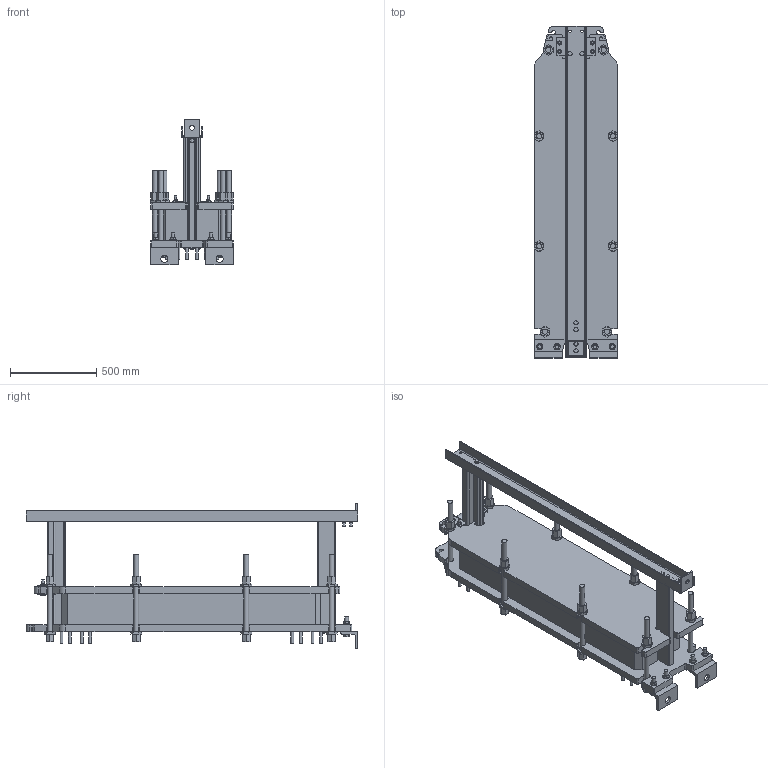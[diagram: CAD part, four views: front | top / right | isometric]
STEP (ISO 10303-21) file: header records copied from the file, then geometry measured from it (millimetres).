
FILE_DESCRIPTION((''),'2;1');
FILE_NAME('c:\temp\TL10_FG_LC600_AL_01_REV0.stp','2009-06-24T11:44:34',('CNSHFLU'),(''),'Autodesk Inventor 2008','Autodesk Inventor 2008','');
FILE_SCHEMA(('AUTOMOTIVE_DESIGN { 1 0 10303 214 1 1 1 1 }'));
Length unit declared in the file: millimetre
Products named in the file (1): TL10
Bounding box: 483 x 1923 x 845 mm (x, y, z)
Volume: 171005929.4 mm3; surface area: 5927495.4 mm2
Topology: 1 solids, 5 shells, 1389 faces, 3632 edges, 2404 vertices
Faces by surface type: plane 750, cylinder 350, bspline 287, cone 2
Full cylindrical faces by diameter (mm): 3.75 x4, 13 x8, 14 x6, 14.2 x2, 16 x34, 22 x9, 24 x10, 28 x1, 30 x8, 37 x4, 40 x2, 60 x1, 100 x4, 110 x4
Entity records: 42421 total; most frequent: CARTESIAN_POINT 8556, ORIENTED_EDGE 6970, DIRECTION 6489, EDGE_CURVE 3485, VECTOR 2687, LINE 2687, VERTEX_POINT 2386, AXIS2_PLACEMENT_3D 1901
